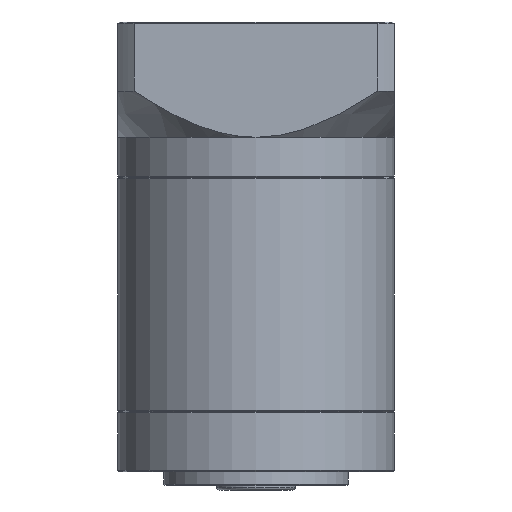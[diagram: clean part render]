
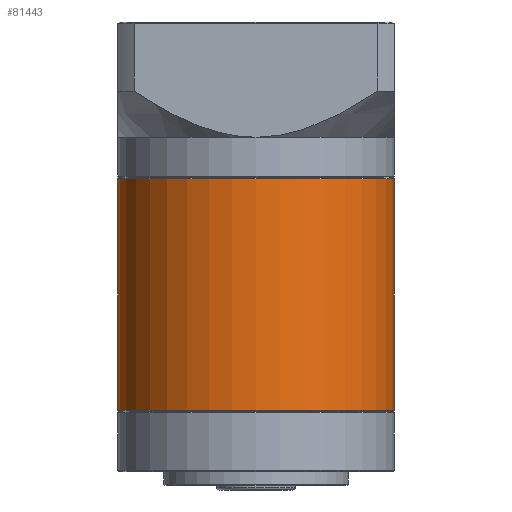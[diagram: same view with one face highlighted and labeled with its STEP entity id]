
A CAD part, front view. The second image highlights one B-rep face of the part: STEP entity #81443.
In plain terms, the highlighted cylindrical face has radius 30 mm (diameter 60 mm), a partial arc.
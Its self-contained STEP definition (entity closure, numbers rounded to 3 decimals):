
#19 = ORIENTED_EDGE ( 'NONE', *, *, #45002, .T. ) ;
#1414 = CIRCLE ( 'NONE', #31511, 30. ) ;
#6096 = DIRECTION ( 'NONE',  ( 0., 0., -1. ) ) ;
#11089 = CARTESIAN_POINT ( 'NONE',  ( -68.862, 23.581, -68.729 ) ) ;
#13194 = CARTESIAN_POINT ( 'NONE',  ( -68.862, 23.581, -18.429 ) ) ;
#13467 = DIRECTION ( 'NONE',  ( -1., 0., 0. ) ) ;
#14751 = DIRECTION ( 'NONE',  ( 0., 0., -1. ) ) ;
#16083 = VECTOR ( 'NONE', #14751, 1000. ) ;
#17147 = CYLINDRICAL_SURFACE ( 'NONE', #23834, 30. ) ;
#18156 = DIRECTION ( 'NONE',  ( 1., 0., 0. ) ) ;
#20293 = DIRECTION ( 'NONE',  ( 1., 0., 0. ) ) ;
#20374 = EDGE_CURVE ( 'NONE', #69174, #44843, #1414, .T. ) ;
#23834 = AXIS2_PLACEMENT_3D ( 'NONE', #55464, #6096, #13467 ) ;
#23920 = CIRCLE ( 'NONE', #55526, 30. ) ;
#25002 = EDGE_LOOP ( 'NONE', ( #61149, #29041, #63318, #19 ) ) ;
#26345 = FACE_OUTER_BOUND ( 'NONE', #25002, .T. ) ;
#27319 = CARTESIAN_POINT ( 'NONE',  ( -98.862, 23.581, -18.179 ) ) ;
#29041 = ORIENTED_EDGE ( 'NONE', *, *, #20374, .T. ) ;
#29598 = LINE ( 'NONE', #83134, #85416 ) ;
#31511 = AXIS2_PLACEMENT_3D ( 'NONE', #13194, #62228, #20293 ) ;
#34658 = LINE ( 'NONE', #27319, #16083 ) ;
#36026 = VERTEX_POINT ( 'NONE', #87488 ) ;
#41683 = EDGE_CURVE ( 'NONE', #44843, #49579, #34658, .T. ) ;
#44843 = VERTEX_POINT ( 'NONE', #83446 ) ;
#45002 = EDGE_CURVE ( 'NONE', #49579, #36026, #23920, .T. ) ;
#49579 = VERTEX_POINT ( 'NONE', #51413 ) ;
#50827 = EDGE_CURVE ( 'NONE', #69174, #36026, #29598, .T. ) ;
#51413 = CARTESIAN_POINT ( 'NONE',  ( -98.862, 23.581, -68.729 ) ) ;
#55464 = CARTESIAN_POINT ( 'NONE',  ( -68.862, 23.581, -18.179 ) ) ;
#55526 = AXIS2_PLACEMENT_3D ( 'NONE', #11089, #60151, #18156 ) ;
#60151 = DIRECTION ( 'NONE',  ( 0., 0., 1. ) ) ;
#61149 = ORIENTED_EDGE ( 'NONE', *, *, #50827, .F. ) ;
#62228 = DIRECTION ( 'NONE',  ( 0., 0., -1. ) ) ;
#63318 = ORIENTED_EDGE ( 'NONE', *, *, #41683, .T. ) ;
#69174 = VERTEX_POINT ( 'NONE', #70148 ) ;
#70148 = CARTESIAN_POINT ( 'NONE',  ( -38.862, 23.581, -18.429 ) ) ;
#81443 = ADVANCED_FACE ( 'NONE', ( #26345 ), #17147, .T. ) ;
#83134 = CARTESIAN_POINT ( 'NONE',  ( -38.862, 23.581, -18.179 ) ) ;
#83446 = CARTESIAN_POINT ( 'NONE',  ( -98.862, 23.581, -18.429 ) ) ;
#85416 = VECTOR ( 'NONE', #90215, 1000. ) ;
#87488 = CARTESIAN_POINT ( 'NONE',  ( -38.862, 23.581, -68.729 ) ) ;
#90215 = DIRECTION ( 'NONE',  ( 0., 0., -1. ) ) ;
